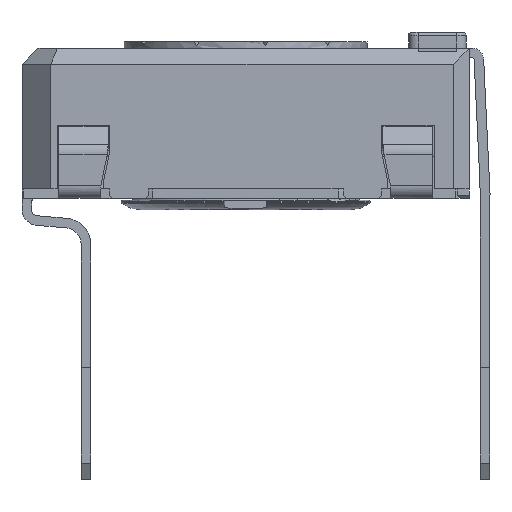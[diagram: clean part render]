
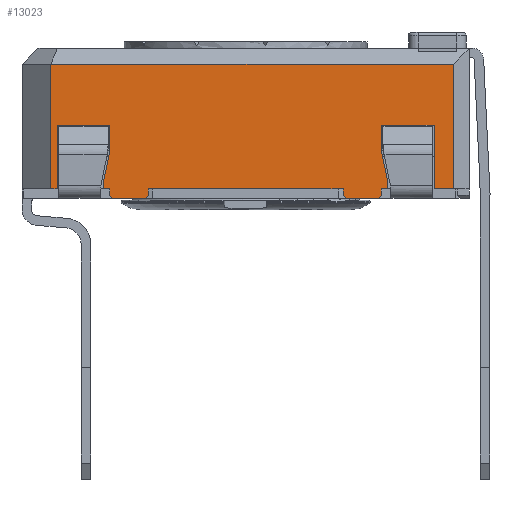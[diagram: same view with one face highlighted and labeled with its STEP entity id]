
A CAD part, left-side view. The second image highlights one B-rep face of the part: STEP entity #13023.
In plain terms, the highlighted planar face has unit normal (-1, 0, 0).
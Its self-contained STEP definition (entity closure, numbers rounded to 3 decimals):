
#448=PLANE('',#13909);
#1052=FACE_OUTER_BOUND('',#1744,.T.);
#1744=EDGE_LOOP('',(#10738,#10739,#10740,#10741,#10742,#10743,#10744,#10745,
#10746,#10747,#10748,#10749,#10750,#10751,#10752,#10753,#10754,#10755,#10756,
#10757,#10758,#10759,#10760,#10761,#10762,#10763,#10764,#10765));
#2734=LINE('',#19864,#4230);
#2740=LINE('',#19876,#4236);
#2743=LINE('',#19883,#4239);
#2748=LINE('',#19892,#4244);
#2768=LINE('',#19933,#4264);
#2782=LINE('',#19959,#4278);
#2786=LINE('',#19966,#4282);
#2801=LINE('',#19995,#4297);
#2804=LINE('',#20001,#4300);
#2809=LINE('',#20011,#4305);
#2812=LINE('',#20017,#4308);
#2815=LINE('',#20023,#4311);
#2833=LINE('',#20058,#4329);
#2845=LINE('',#20080,#4341);
#2848=LINE('',#20086,#4344);
#2885=LINE('',#20220,#4381);
#2888=LINE('',#20226,#4384);
#2914=LINE('',#20273,#4410);
#2919=LINE('',#20283,#4415);
#2921=LINE('',#20286,#4417);
#3045=LINE('',#20594,#4541);
#3047=LINE('',#20599,#4543);
#3050=LINE('',#20603,#4546);
#3052=LINE('',#20607,#4548);
#3055=LINE('',#20615,#4551);
#3056=LINE('',#20617,#4552);
#3057=LINE('',#20618,#4553);
#3058=LINE('',#20619,#4554);
#4230=VECTOR('',#15972,10.);
#4236=VECTOR('',#15980,10.);
#4239=VECTOR('',#15985,10.);
#4244=VECTOR('',#15992,10.);
#4264=VECTOR('',#16026,10.);
#4278=VECTOR('',#16040,10.);
#4282=VECTOR('',#16044,10.);
#4297=VECTOR('',#16071,10.);
#4300=VECTOR('',#16076,10.);
#4305=VECTOR('',#16083,10.);
#4308=VECTOR('',#16088,10.);
#4311=VECTOR('',#16093,10.);
#4329=VECTOR('',#16113,10.);
#4341=VECTOR('',#16127,10.);
#4344=VECTOR('',#16132,10.);
#4381=VECTOR('',#16213,10.);
#4384=VECTOR('',#16218,10.);
#4410=VECTOR('',#16246,10.);
#4415=VECTOR('',#16253,10.);
#4417=VECTOR('',#16257,10.);
#4541=VECTOR('',#16549,10.);
#4543=VECTOR('',#16553,10.);
#4546=VECTOR('',#16558,10.);
#4548=VECTOR('',#16564,10.);
#4551=VECTOR('',#16575,10.);
#4552=VECTOR('',#16576,10.);
#4553=VECTOR('',#16577,10.);
#4554=VECTOR('',#16578,10.);
#5961=VERTEX_POINT('',#19861);
#5962=VERTEX_POINT('',#19863);
#5966=VERTEX_POINT('',#19873);
#5968=VERTEX_POINT('',#19879);
#5970=VERTEX_POINT('',#19882);
#5973=VERTEX_POINT('',#19890);
#5998=VERTEX_POINT('',#19956);
#5999=VERTEX_POINT('',#19958);
#6001=VERTEX_POINT('',#19963);
#6002=VERTEX_POINT('',#19965);
#6009=VERTEX_POINT('',#19992);
#6011=VERTEX_POINT('',#19998);
#6015=VERTEX_POINT('',#20008);
#6017=VERTEX_POINT('',#20014);
#6020=VERTEX_POINT('',#20021);
#6036=VERTEX_POINT('',#20056);
#6045=VERTEX_POINT('',#20078);
#6047=VERTEX_POINT('',#20084);
#6074=VERTEX_POINT('',#20218);
#6075=VERTEX_POINT('',#20223);
#6095=VERTEX_POINT('',#20270);
#6099=VERTEX_POINT('',#20280);
#6173=VERTEX_POINT('',#20591);
#6174=VERTEX_POINT('',#20593);
#6175=VERTEX_POINT('',#20597);
#6176=VERTEX_POINT('',#20598);
#6177=VERTEX_POINT('',#20614);
#6178=VERTEX_POINT('',#20616);
#7468=EDGE_CURVE('',#5962,#5961,#2734,.T.);
#7474=EDGE_CURVE('',#5961,#5966,#2740,.T.);
#7477=EDGE_CURVE('',#5970,#5968,#2743,.T.);
#7482=EDGE_CURVE('',#5973,#5968,#2748,.T.);
#7502=EDGE_CURVE('',#5966,#5970,#2768,.T.);
#7516=EDGE_CURVE('',#5999,#5998,#2782,.T.);
#7520=EDGE_CURVE('',#6002,#6001,#2786,.T.);
#7536=EDGE_CURVE('',#5998,#6009,#2801,.T.);
#7539=EDGE_CURVE('',#6009,#6011,#2804,.T.);
#7544=EDGE_CURVE('',#6011,#6015,#2809,.T.);
#7547=EDGE_CURVE('',#6015,#6017,#2812,.T.);
#7550=EDGE_CURVE('',#6017,#6020,#2815,.T.);
#7568=EDGE_CURVE('',#6020,#6036,#2833,.T.);
#7580=EDGE_CURVE('',#6045,#6036,#2845,.T.);
#7583=EDGE_CURVE('',#6047,#6045,#2848,.T.);
#7632=EDGE_CURVE('',#6074,#6047,#2885,.T.);
#7635=EDGE_CURVE('',#6074,#6075,#2888,.T.);
#7661=EDGE_CURVE('',#6075,#6095,#2914,.T.);
#7666=EDGE_CURVE('',#6095,#6099,#2919,.T.);
#7668=EDGE_CURVE('',#6099,#5962,#2921,.T.);
#7808=EDGE_CURVE('',#6173,#6174,#3045,.T.);
#7810=EDGE_CURVE('',#6175,#6176,#3047,.T.);
#7813=EDGE_CURVE('',#5999,#6173,#3050,.T.);
#7815=EDGE_CURVE('',#6001,#6176,#3052,.T.);
#7818=EDGE_CURVE('',#5973,#6177,#3055,.T.);
#7819=EDGE_CURVE('',#6178,#6177,#3056,.T.);
#7820=EDGE_CURVE('',#6002,#6178,#3057,.T.);
#7821=EDGE_CURVE('',#6175,#6174,#3058,.T.);
#10738=ORIENTED_EDGE('',*,*,#7474,.T.);
#10739=ORIENTED_EDGE('',*,*,#7502,.T.);
#10740=ORIENTED_EDGE('',*,*,#7477,.T.);
#10741=ORIENTED_EDGE('',*,*,#7482,.F.);
#10742=ORIENTED_EDGE('',*,*,#7818,.T.);
#10743=ORIENTED_EDGE('',*,*,#7819,.F.);
#10744=ORIENTED_EDGE('',*,*,#7820,.F.);
#10745=ORIENTED_EDGE('',*,*,#7520,.T.);
#10746=ORIENTED_EDGE('',*,*,#7815,.T.);
#10747=ORIENTED_EDGE('',*,*,#7810,.F.);
#10748=ORIENTED_EDGE('',*,*,#7821,.T.);
#10749=ORIENTED_EDGE('',*,*,#7808,.F.);
#10750=ORIENTED_EDGE('',*,*,#7813,.F.);
#10751=ORIENTED_EDGE('',*,*,#7516,.T.);
#10752=ORIENTED_EDGE('',*,*,#7536,.T.);
#10753=ORIENTED_EDGE('',*,*,#7539,.T.);
#10754=ORIENTED_EDGE('',*,*,#7544,.T.);
#10755=ORIENTED_EDGE('',*,*,#7547,.T.);
#10756=ORIENTED_EDGE('',*,*,#7550,.T.);
#10757=ORIENTED_EDGE('',*,*,#7568,.T.);
#10758=ORIENTED_EDGE('',*,*,#7580,.F.);
#10759=ORIENTED_EDGE('',*,*,#7583,.F.);
#10760=ORIENTED_EDGE('',*,*,#7632,.F.);
#10761=ORIENTED_EDGE('',*,*,#7635,.T.);
#10762=ORIENTED_EDGE('',*,*,#7661,.T.);
#10763=ORIENTED_EDGE('',*,*,#7666,.T.);
#10764=ORIENTED_EDGE('',*,*,#7668,.T.);
#10765=ORIENTED_EDGE('',*,*,#7468,.T.);
#13023=ADVANCED_FACE('',(#1052),#448,.T.);
#13909=AXIS2_PLACEMENT_3D('',#20613,#16573,#16574);
#15972=DIRECTION('',(0.,0.208,-0.978));
#15980=DIRECTION('',(0.,0.,-1.));
#15985=DIRECTION('',(0.,0.,-1.));
#15992=DIRECTION('',(0.,0.707,0.707));
#16026=DIRECTION('',(0.,-1.,0.));
#16040=DIRECTION('',(0.,-1.,0.));
#16044=DIRECTION('',(0.,-1.,0.));
#16071=DIRECTION('',(0.,0.,1.));
#16076=DIRECTION('',(0.,0.208,0.978));
#16083=DIRECTION('',(0.,0.,1.));
#16088=DIRECTION('',(0.,-1.,0.));
#16093=DIRECTION('',(0.,0.,-1.));
#16113=DIRECTION('',(0.,-1.,0.));
#16127=DIRECTION('',(0.,0.,-1.));
#16132=DIRECTION('',(0.,-1.,0.));
#16213=DIRECTION('',(0.,0.,1.));
#16218=DIRECTION('',(0.,-1.,0.));
#16246=DIRECTION('',(0.,0.,1.));
#16253=DIRECTION('',(0.,-1.,0.));
#16257=DIRECTION('',(0.,0.,-1.));
#16549=DIRECTION('',(0.,0.707,-0.707));
#16553=DIRECTION('',(0.,0.707,0.707));
#16558=DIRECTION('',(0.,0.,-1.));
#16564=DIRECTION('',(0.,0.,-1.));
#16573=DIRECTION('center_axis',(-1.,0.,0.));
#16574=DIRECTION('ref_axis',(0.,0.,1.));
#16575=DIRECTION('',(0.,-1.,0.));
#16576=DIRECTION('',(0.,0.707,-0.707));
#16577=DIRECTION('',(0.,0.,-1.));
#16578=DIRECTION('',(0.,-1.,0.));
#19861=CARTESIAN_POINT('',(-14.467,1.552,0.235));
#19863=CARTESIAN_POINT('',(-14.467,1.352,1.176));
#19864=CARTESIAN_POINT('',(-14.467,1.228,1.757));
#19873=CARTESIAN_POINT('',(-14.467,1.552,0.));
#19876=CARTESIAN_POINT('',(-14.467,1.552,0.));
#19879=CARTESIAN_POINT('',(-14.467,1.352,-0.2));
#19882=CARTESIAN_POINT('',(-14.467,1.352,0.));
#19883=CARTESIAN_POINT('',(-14.467,1.352,0.));
#19890=CARTESIAN_POINT('',(-14.467,1.252,-0.3));
#19892=CARTESIAN_POINT('',(-14.467,-1.436,-2.988));
#19933=CARTESIAN_POINT('',(-14.467,4.102,0.));
#19956=CARTESIAN_POINT('',(-14.467,-7.348,0.));
#19958=CARTESIAN_POINT('',(-14.467,-7.148,0.));
#19959=CARTESIAN_POINT('',(-14.467,4.102,0.));
#19963=CARTESIAN_POINT('',(-14.467,-5.948,0.));
#19965=CARTESIAN_POINT('',(-14.467,0.152,0.));
#19966=CARTESIAN_POINT('',(-14.467,4.102,0.));
#19992=CARTESIAN_POINT('',(-14.467,-7.348,0.235));
#19995=CARTESIAN_POINT('',(-14.467,-7.348,0.118));
#19998=CARTESIAN_POINT('',(-14.467,-7.148,1.176));
#20001=CARTESIAN_POINT('',(-14.467,-7.453,-0.254));
#20008=CARTESIAN_POINT('',(-14.467,-7.148,2.));
#20011=CARTESIAN_POINT('',(-14.467,-7.148,0.588));
#20014=CARTESIAN_POINT('',(-14.467,-8.798,2.));
#20017=CARTESIAN_POINT('',(-14.467,-8.523,2.));
#20021=CARTESIAN_POINT('',(-14.467,-8.798,0.));
#20023=CARTESIAN_POINT('',(-14.467,-8.798,0.));
#20056=CARTESIAN_POINT('',(-14.467,-9.398,0.));
#20058=CARTESIAN_POINT('',(-14.467,-9.595,0.));
#20078=CARTESIAN_POINT('',(-14.467,-9.398,3.9));
#20080=CARTESIAN_POINT('',(-14.467,-9.398,0.));
#20084=CARTESIAN_POINT('',(-14.467,3.202,3.9));
#20086=CARTESIAN_POINT('',(-14.467,-6.398,3.9));
#20218=CARTESIAN_POINT('',(-14.467,3.202,0.));
#20220=CARTESIAN_POINT('',(-14.467,3.202,0.));
#20223=CARTESIAN_POINT('',(-14.467,3.002,0.));
#20226=CARTESIAN_POINT('',(-14.467,-2.985,0.));
#20270=CARTESIAN_POINT('',(-14.467,3.002,2.));
#20273=CARTESIAN_POINT('',(-14.467,3.002,0.));
#20280=CARTESIAN_POINT('',(-14.467,1.352,2.));
#20283=CARTESIAN_POINT('',(-14.467,-3.448,2.));
#20286=CARTESIAN_POINT('',(-14.467,1.352,1.));
#20591=CARTESIAN_POINT('',(-14.467,-7.148,-0.2));
#20593=CARTESIAN_POINT('',(-14.467,-7.048,-0.3));
#20594=CARTESIAN_POINT('',(-14.467,-7.861,0.513));
#20597=CARTESIAN_POINT('',(-14.467,-6.048,-0.3));
#20598=CARTESIAN_POINT('',(-14.467,-5.948,-0.2));
#20599=CARTESIAN_POINT('',(-14.467,-6.911,-1.163));
#20603=CARTESIAN_POINT('',(-14.467,-7.148,0.));
#20607=CARTESIAN_POINT('',(-14.467,-5.948,0.));
#20613=CARTESIAN_POINT('Origin',(-14.467,-9.898,0.));
#20614=CARTESIAN_POINT('',(-14.467,0.252,-0.3));
#20615=CARTESIAN_POINT('',(-14.467,0.152,-0.3));
#20616=CARTESIAN_POINT('',(-14.467,0.152,-0.2));
#20617=CARTESIAN_POINT('',(-14.467,-2.386,2.338));
#20618=CARTESIAN_POINT('',(-14.467,0.152,0.));
#20619=CARTESIAN_POINT('',(-14.467,-7.148,-0.3));
